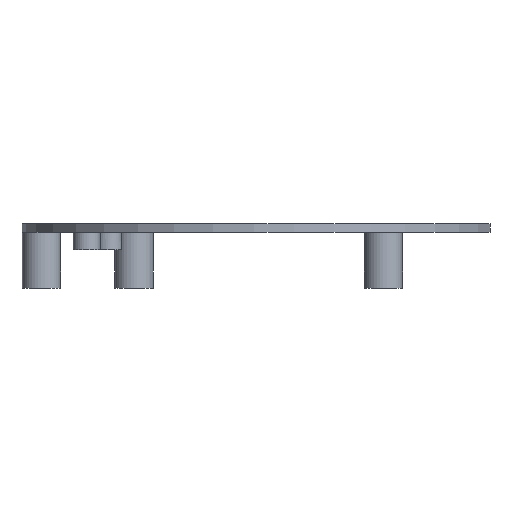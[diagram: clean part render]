
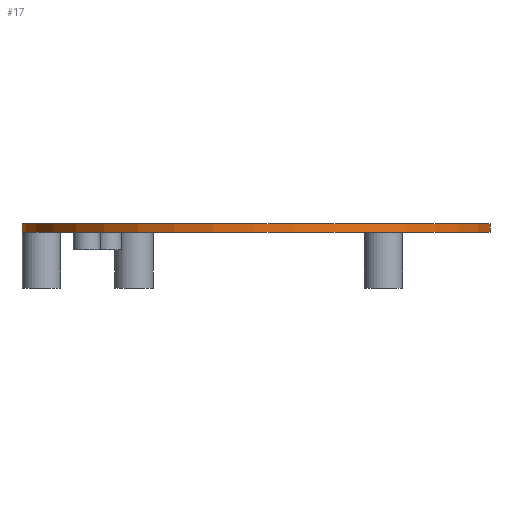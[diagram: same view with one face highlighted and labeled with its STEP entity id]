
A CAD part, left-side view. The second image highlights one B-rep face of the part: STEP entity #17.
In plain terms, the highlighted cylindrical face has radius 22 mm (diameter 44 mm), a partial arc.
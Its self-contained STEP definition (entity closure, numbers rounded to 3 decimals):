
#17 = ADVANCED_FACE('',(#18),#33,.T.);
#18 = FACE_BOUND('',#19,.T.);
#19 = EDGE_LOOP('',(#20,#56,#82,#115));
#20 = ORIENTED_EDGE('',*,*,#21,.T.);
#21 = EDGE_CURVE('',#22,#24,#26,.T.);
#22 = VERTEX_POINT('',#23);
#23 = CARTESIAN_POINT('',(4.664,-21.5,20.2));
#24 = VERTEX_POINT('',#25);
#25 = CARTESIAN_POINT('',(-4.664,-21.5,20.2));
#26 = SURFACE_CURVE('',#27,(#32,#44),.PCURVE_S1.);
#27 = CIRCLE('',#28,22.);
#28 = AXIS2_PLACEMENT_3D('',#29,#30,#31);
#29 = CARTESIAN_POINT('',(0.,0.,20.2));
#30 = DIRECTION('',(0.,0.,1.));
#31 = DIRECTION('',(0.212,-0.977,0.));
#32 = PCURVE('',#33,#38);
#33 = CYLINDRICAL_SURFACE('',#34,22.);
#34 = AXIS2_PLACEMENT_3D('',#35,#36,#37);
#35 = CARTESIAN_POINT('',(0.,0.,20.2));
#36 = DIRECTION('',(0.,0.,1.));
#37 = DIRECTION('',(1.,0.,-0.));
#38 = DEFINITIONAL_REPRESENTATION('',(#39),#43);
#39 = LINE('',#40,#41);
#40 = CARTESIAN_POINT('',(4.926,0.));
#41 = VECTOR('',#42,1.);
#42 = DIRECTION('',(1.,0.));
#43 = ( GEOMETRIC_REPRESENTATION_CONTEXT(2) 
PARAMETRIC_REPRESENTATION_CONTEXT() REPRESENTATION_CONTEXT('2D SPACE',''
  ) );
#44 = PCURVE('',#45,#50);
#45 = PLANE('',#46);
#46 = AXIS2_PLACEMENT_3D('',#47,#48,#49);
#47 = CARTESIAN_POINT('',(0.,0.,20.2));
#48 = DIRECTION('',(0.,0.,1.));
#49 = DIRECTION('',(1.,0.,-0.));
#50 = DEFINITIONAL_REPRESENTATION('',(#51),#55);
#51 = CIRCLE('',#52,22.);
#52 = AXIS2_PLACEMENT_2D('',#53,#54);
#53 = CARTESIAN_POINT('',(0.,0.));
#54 = DIRECTION('',(0.212,-0.977));
#55 = ( GEOMETRIC_REPRESENTATION_CONTEXT(2) 
PARAMETRIC_REPRESENTATION_CONTEXT() REPRESENTATION_CONTEXT('2D SPACE',''
  ) );
#56 = ORIENTED_EDGE('',*,*,#57,.T.);
#57 = EDGE_CURVE('',#24,#58,#60,.T.);
#58 = VERTEX_POINT('',#59);
#59 = CARTESIAN_POINT('',(-4.664,-21.5,21.));
#60 = SURFACE_CURVE('',#61,(#65,#71),.PCURVE_S1.);
#61 = LINE('',#62,#63);
#62 = CARTESIAN_POINT('',(-4.664,-21.5,20.2));
#63 = VECTOR('',#64,1.);
#64 = DIRECTION('',(0.,0.,1.));
#65 = PCURVE('',#33,#66);
#66 = DEFINITIONAL_REPRESENTATION('',(#67),#70);
#67 = B_SPLINE_CURVE_WITH_KNOTS('',1,(#68,#69),.UNSPECIFIED.,.F.,.F.,(2,
    2),(0.,0.8),.PIECEWISE_BEZIER_KNOTS.);
#68 = CARTESIAN_POINT('',(10.782,0.));
#69 = CARTESIAN_POINT('',(10.782,0.8));
#70 = ( GEOMETRIC_REPRESENTATION_CONTEXT(2) 
PARAMETRIC_REPRESENTATION_CONTEXT() REPRESENTATION_CONTEXT('2D SPACE',''
  ) );
#71 = PCURVE('',#72,#77);
#72 = PLANE('',#73);
#73 = AXIS2_PLACEMENT_3D('',#74,#75,#76);
#74 = CARTESIAN_POINT('',(-30.,-21.5,0.));
#75 = DIRECTION('',(0.,1.,0.));
#76 = DIRECTION('',(0.,0.,1.));
#77 = DEFINITIONAL_REPRESENTATION('',(#78),#81);
#78 = B_SPLINE_CURVE_WITH_KNOTS('',1,(#79,#80),.UNSPECIFIED.,.F.,.F.,(2,
    2),(0.,0.8),.PIECEWISE_BEZIER_KNOTS.);
#79 = CARTESIAN_POINT('',(20.2,25.336));
#80 = CARTESIAN_POINT('',(21.,25.336));
#81 = ( GEOMETRIC_REPRESENTATION_CONTEXT(2) 
PARAMETRIC_REPRESENTATION_CONTEXT() REPRESENTATION_CONTEXT('2D SPACE',''
  ) );
#82 = ORIENTED_EDGE('',*,*,#83,.T.);
#83 = EDGE_CURVE('',#58,#84,#86,.T.);
#84 = VERTEX_POINT('',#85);
#85 = CARTESIAN_POINT('',(4.664,-21.5,21.));
#86 = SURFACE_CURVE('',#87,(#92,#99),.PCURVE_S1.);
#87 = CIRCLE('',#88,22.);
#88 = AXIS2_PLACEMENT_3D('',#89,#90,#91);
#89 = CARTESIAN_POINT('',(0.,0.,21.));
#90 = DIRECTION('',(-0.,0.,-1.));
#91 = DIRECTION('',(-0.212,-0.977,0.));
#92 = PCURVE('',#33,#93);
#93 = DEFINITIONAL_REPRESENTATION('',(#94),#98);
#94 = LINE('',#95,#96);
#95 = CARTESIAN_POINT('',(10.782,0.8));
#96 = VECTOR('',#97,1.);
#97 = DIRECTION('',(-1.,-0.));
#98 = ( GEOMETRIC_REPRESENTATION_CONTEXT(2) 
PARAMETRIC_REPRESENTATION_CONTEXT() REPRESENTATION_CONTEXT('2D SPACE',''
  ) );
#99 = PCURVE('',#100,#105);
#100 = PLANE('',#101);
#101 = AXIS2_PLACEMENT_3D('',#102,#103,#104);
#102 = CARTESIAN_POINT('',(0.,0.,21.));
#103 = DIRECTION('',(0.,0.,1.));
#104 = DIRECTION('',(1.,0.,-0.));
#105 = DEFINITIONAL_REPRESENTATION('',(#106),#114);
#106 = ( BOUNDED_CURVE() B_SPLINE_CURVE(2,(#107,#108,#109,#110,#111,#112
,#113),.UNSPECIFIED.,.T.,.F.) B_SPLINE_CURVE_WITH_KNOTS((1,2,2,2,2,1),(
    -2.094,0.,2.094,4.189,6.283,
8.378),.UNSPECIFIED.) CURVE() GEOMETRIC_REPRESENTATION_ITEM() 
RATIONAL_B_SPLINE_CURVE((1.,0.5,1.,0.5,1.,0.5,1.)) REPRESENTATION_ITEM(
  '') );
#107 = CARTESIAN_POINT('',(-4.664,-21.5));
#108 = CARTESIAN_POINT('',(-41.903,-13.422));
#109 = CARTESIAN_POINT('',(-16.288,14.789));
#110 = CARTESIAN_POINT('',(9.327,43.));
#111 = CARTESIAN_POINT('',(20.951,6.711));
#112 = CARTESIAN_POINT('',(32.575,-29.578));
#113 = CARTESIAN_POINT('',(-4.664,-21.5));
#114 = ( GEOMETRIC_REPRESENTATION_CONTEXT(2) 
PARAMETRIC_REPRESENTATION_CONTEXT() REPRESENTATION_CONTEXT('2D SPACE',''
  ) );
#115 = ORIENTED_EDGE('',*,*,#116,.F.);
#116 = EDGE_CURVE('',#22,#84,#117,.T.);
#117 = SURFACE_CURVE('',#118,(#122,#128),.PCURVE_S1.);
#118 = LINE('',#119,#120);
#119 = CARTESIAN_POINT('',(4.664,-21.5,20.2));
#120 = VECTOR('',#121,1.);
#121 = DIRECTION('',(0.,0.,1.));
#122 = PCURVE('',#33,#123);
#123 = DEFINITIONAL_REPRESENTATION('',(#124),#127);
#124 = B_SPLINE_CURVE_WITH_KNOTS('',1,(#125,#126),.UNSPECIFIED.,.F.,.F.,
  (2,2),(0.,0.8),.PIECEWISE_BEZIER_KNOTS.);
#125 = CARTESIAN_POINT('',(4.926,0.));
#126 = CARTESIAN_POINT('',(4.926,0.8));
#127 = ( GEOMETRIC_REPRESENTATION_CONTEXT(2) 
PARAMETRIC_REPRESENTATION_CONTEXT() REPRESENTATION_CONTEXT('2D SPACE',''
  ) );
#128 = PCURVE('',#72,#129);
#129 = DEFINITIONAL_REPRESENTATION('',(#130),#133);
#130 = B_SPLINE_CURVE_WITH_KNOTS('',1,(#131,#132),.UNSPECIFIED.,.F.,.F.,
  (2,2),(0.,0.8),.PIECEWISE_BEZIER_KNOTS.);
#131 = CARTESIAN_POINT('',(20.2,34.664));
#132 = CARTESIAN_POINT('',(21.,34.664));
#133 = ( GEOMETRIC_REPRESENTATION_CONTEXT(2) 
PARAMETRIC_REPRESENTATION_CONTEXT() REPRESENTATION_CONTEXT('2D SPACE',''
  ) );
